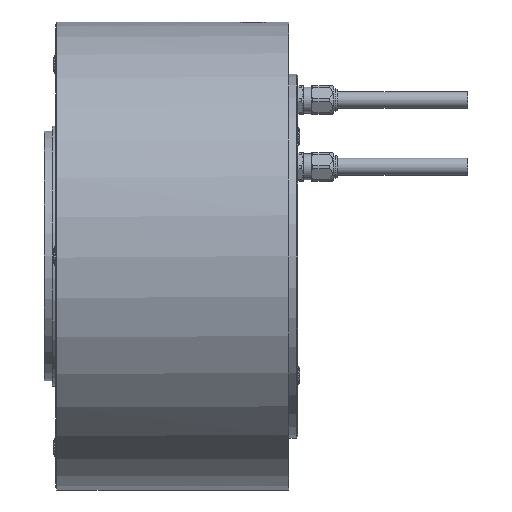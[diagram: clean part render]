
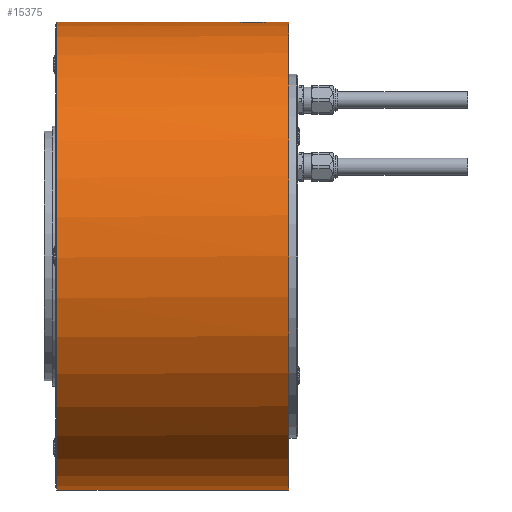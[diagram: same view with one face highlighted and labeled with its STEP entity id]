
A CAD part, left-side view. The second image highlights one B-rep face of the part: STEP entity #15375.
In plain terms, the highlighted cylindrical face has radius 90 mm (diameter 180 mm), a partial arc.
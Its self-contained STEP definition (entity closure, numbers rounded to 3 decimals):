
#39 = CARTESIAN_POINT ( 'NONE',  ( -7., -13., 89.727 ) ) ;
#97 = CARTESIAN_POINT ( 'NONE',  ( -6.956, -13.911, 89.731 ) ) ;
#99 = ORIENTED_EDGE ( 'NONE', *, *, #8497, .T. ) ;
#216 = VERTEX_POINT ( 'NONE', #17776 ) ;
#600 = CARTESIAN_POINT ( 'NONE',  ( -6.632, -15.253, 89.755 ) ) ;
#747 = FACE_OUTER_BOUND ( 'NONE', #13294, .T. ) ;
#869 = CARTESIAN_POINT ( 'NONE',  ( 0., 62.2, -90. ) ) ;
#1320 = CARTESIAN_POINT ( 'NONE',  ( -6.38, -10.11, 89.774 ) ) ;
#1594 = CARTESIAN_POINT ( 'NONE',  ( 0., -20., 90. ) ) ;
#1845 = VECTOR ( 'NONE', #16333, 1000. ) ;
#1868 = CARTESIAN_POINT ( 'NONE',  ( 0., -6., 90. ) ) ;
#1927 = VECTOR ( 'NONE', #20187, 1000. ) ;
#2133 = LINE ( 'NONE', #7092, #1927 ) ;
#2699 = CARTESIAN_POINT ( 'NONE',  ( 0., -20., 90. ) ) ;
#2731 = VERTEX_POINT ( 'NONE', #10478 ) ;
#3049 = CARTESIAN_POINT ( 'NONE',  ( -4.623, -7.724, 89.882 ) ) ;
#3122 = DIRECTION ( 'NONE',  ( 0., 1., 0. ) ) ;
#3151 = CARTESIAN_POINT ( 'NONE',  ( -7., -12.543, 89.727 ) ) ;
#3404 = VERTEX_POINT ( 'NONE', #869 ) ;
#3427 = CARTESIAN_POINT ( 'NONE',  ( -5.564, -17.272, 89.828 ) ) ;
#3638 = CARTESIAN_POINT ( 'NONE',  ( 0., -30., 90. ) ) ;
#3827 = CARTESIAN_POINT ( 'NONE',  ( -2.251, -19.632, 89.972 ) ) ;
#3986 = CARTESIAN_POINT ( 'NONE',  ( 0., -30., 0. ) ) ;
#4175 = CARTESIAN_POINT ( 'NONE',  ( 0., 62.2, 0. ) ) ;
#4421 = CARTESIAN_POINT ( 'NONE',  ( 0., -27., 90. ) ) ;
#4851 = CARTESIAN_POINT ( 'NONE',  ( -2.89, -6.62, 89.954 ) ) ;
#4966 = CARTESIAN_POINT ( 'NONE',  ( -1.818, -6.225, 89.983 ) ) ;
#5537 = CARTESIAN_POINT ( 'NONE',  ( -7., -13.457, 89.727 ) ) ;
#6540 = CARTESIAN_POINT ( 'NONE',  ( -6.821, -14.589, 89.741 ) ) ;
#6593 = CARTESIAN_POINT ( 'NONE',  ( -5.946, -9.299, 89.803 ) ) ;
#6678 = CIRCLE ( 'NONE', #11131, 90. ) ;
#6822 = ORIENTED_EDGE ( 'NONE', *, *, #11179, .F. ) ;
#6945 = AXIS2_PLACEMENT_3D ( 'NONE', #3986, #17075, #17181 ) ;
#7092 = CARTESIAN_POINT ( 'NONE',  ( 0., -30., 90. ) ) ;
#7321 = LINE ( 'NONE', #8611, #12195 ) ;
#7347 = CARTESIAN_POINT ( 'NONE',  ( 0., 62., 0. ) ) ;
#7430 = CIRCLE ( 'NONE', #20451, 90. ) ;
#7522 = VERTEX_POINT ( 'NONE', #14933 ) ;
#7528 = CYLINDRICAL_SURFACE ( 'NONE', #6945, 90. ) ;
#8051 = CARTESIAN_POINT ( 'NONE',  ( -5.274, -17.625, 89.846 ) ) ;
#8110 = CARTESIAN_POINT ( 'NONE',  ( -4.269, -7.434, 89.899 ) ) ;
#8167 = CARTESIAN_POINT ( 'NONE',  ( -6.765, -14.814, 89.745 ) ) ;
#8480 = CARTESIAN_POINT ( 'NONE',  ( -1.25, 62.2, 89.991 ) ) ;
#8497 = EDGE_CURVE ( 'NONE', #12326, #8657, #12279, .T. ) ;
#8611 = CARTESIAN_POINT ( 'NONE',  ( 0., -30., -90. ) ) ;
#8643 = CARTESIAN_POINT ( 'NONE',  ( -0.457, -6., 90. ) ) ;
#8644 = DIRECTION ( 'NONE',  ( 0., 0., -1. ) ) ;
#8657 = VERTEX_POINT ( 'NONE', #8480 ) ;
#8781 = CARTESIAN_POINT ( 'NONE',  ( -6.478, -15.682, 89.767 ) ) ;
#9167 = ORIENTED_EDGE ( 'NONE', *, *, #17486, .F. ) ;
#9172 = AXIS2_PLACEMENT_3D ( 'NONE', #4175, #16073, #12740 ) ;
#9251 = ORIENTED_EDGE ( 'NONE', *, *, #16183, .T. ) ;
#9382 = B_SPLINE_CURVE_WITH_KNOTS ( 'NONE', 3,
 ( #39, #3151, #13039, #17965, #16043, #1320, #17855, #19489, #6593, #13145, #19380, #3049, #8110, #14648, #19585, #19696, #4851, #11433, #4966, #20022, #8643, #1868 ),
 .UNSPECIFIED., .F., .F.,
 ( 4, 2, 2, 2, 2, 2, 2, 2, 2, 2, 4 ),
 ( 0.011, 0.012, 0.014, 0.014, 0.015, 0.016, 0.018, 0.018, 0.019, 0.021, 0.022 ),
 .UNSPECIFIED. ) ;
#9876 = CARTESIAN_POINT ( 'NONE',  ( -7., -13., 89.727 ) ) ;
#9978 = CARTESIAN_POINT ( 'NONE',  ( -5.948, -16.698, 89.803 ) ) ;
#10375 = CARTESIAN_POINT ( 'NONE',  ( -2.47, -19.554, 89.966 ) ) ;
#10397 = LINE ( 'NONE', #3638, #10411 ) ;
#10411 = VECTOR ( 'NONE', #3122, 1000. ) ;
#10478 = CARTESIAN_POINT ( 'NONE',  ( 0., 62., 90. ) ) ;
#10490 = CARTESIAN_POINT ( 'NONE',  ( -0.463, -20., 90. ) ) ;
#10524 = B_SPLINE_CURVE_WITH_KNOTS ( 'NONE', 3,
 ( #1594, #10490, #11488, #18521, #20255, #3827, #10375, #16520, #13299, #14809, #18123, #8051, #3427, #9978, #14700, #15320, #8781, #600, #8167, #6540, #97, #5537, #9876 ),
 .UNSPECIFIED., .F., .F.,
 ( 4, 2, 2, 2, 2, 2, 2, 2, 1, 2, 2, 4 ),
 ( 0., 0.001, 0.002, 0.003, 0.004, 0.005, 0.007, 0.008, 0.008, 0.009, 0.01, 0.011 ),
 .UNSPECIFIED. ) ;
#10760 = ORIENTED_EDGE ( 'NONE', *, *, #11748, .T. ) ;
#11131 = AXIS2_PLACEMENT_3D ( 'NONE', #14979, #14867, #8644 ) ;
#11179 = EDGE_CURVE ( 'NONE', #3404, #8657, #19814, .T. ) ;
#11230 = ORIENTED_EDGE ( 'NONE', *, *, #19914, .F. ) ;
#11433 = CARTESIAN_POINT ( 'NONE',  ( -2.254, -6.357, 89.973 ) ) ;
#11488 = CARTESIAN_POINT ( 'NONE',  ( -0.918, -19.955, 89.996 ) ) ;
#11748 = EDGE_CURVE ( 'NONE', #16166, #216, #9382, .T. ) ;
#12195 = VECTOR ( 'NONE', #18696, 1000. ) ;
#12279 = LINE ( 'NONE', #21158, #1845 ) ;
#12326 = VERTEX_POINT ( 'NONE', #14914 ) ;
#12740 = DIRECTION ( 'NONE',  ( 0., 0., 1. ) ) ;
#13039 = CARTESIAN_POINT ( 'NONE',  ( -6.954, -12.079, 89.731 ) ) ;
#13145 = CARTESIAN_POINT ( 'NONE',  ( -5.566, -8.73, 89.828 ) ) ;
#13294 = EDGE_LOOP ( 'NONE', ( #9167, #11230, #9251, #21049, #10760, #18451, #20298, #99, #6822 ) ) ;
#13299 = CARTESIAN_POINT ( 'NONE',  ( -3.508, -19.075, 89.932 ) ) ;
#14075 = DIRECTION ( 'NONE',  ( 0., 1., 0. ) ) ;
#14648 = CARTESIAN_POINT ( 'NONE',  ( -3.701, -7.054, 89.924 ) ) ;
#14700 = CARTESIAN_POINT ( 'NONE',  ( -6.067, -16.499, 89.795 ) ) ;
#14809 = CARTESIAN_POINT ( 'NONE',  ( -4.269, -18.567, 89.9 ) ) ;
#14867 = DIRECTION ( 'NONE',  ( 0., -1., 0. ) ) ;
#14914 = CARTESIAN_POINT ( 'NONE',  ( -1.25, 62., 89.991 ) ) ;
#14933 = CARTESIAN_POINT ( 'NONE',  ( 0., -27., -90. ) ) ;
#14979 = CARTESIAN_POINT ( 'NONE',  ( 0., -27., 0. ) ) ;
#15320 = CARTESIAN_POINT ( 'NONE',  ( -6.283, -16.095, 89.781 ) ) ;
#15375 = ADVANCED_FACE ( 'NONE', ( #747 ), #7528, .T. ) ;
#15538 = EDGE_CURVE ( 'NONE', #16091, #16166, #10524, .T. ) ;
#15714 = DIRECTION ( 'NONE',  ( 0., 0., 1. ) ) ;
#16043 = CARTESIAN_POINT ( 'NONE',  ( -6.643, -10.746, 89.755 ) ) ;
#16073 = DIRECTION ( 'NONE',  ( 0., 1., 0. ) ) ;
#16091 = VERTEX_POINT ( 'NONE', #2699 ) ;
#16166 = VERTEX_POINT ( 'NONE', #16234 ) ;
#16183 = EDGE_CURVE ( 'NONE', #18503, #16091, #10397, .T. ) ;
#16234 = CARTESIAN_POINT ( 'NONE',  ( -7., -13., 89.727 ) ) ;
#16333 = DIRECTION ( 'NONE',  ( 0., 1., 0. ) ) ;
#16520 = CARTESIAN_POINT ( 'NONE',  ( -3.106, -19.29, 89.947 ) ) ;
#17075 = DIRECTION ( 'NONE',  ( 0., 1., 0. ) ) ;
#17181 = DIRECTION ( 'NONE',  ( 0., 0., 1. ) ) ;
#17486 = EDGE_CURVE ( 'NONE', #7522, #3404, #7321, .T. ) ;
#17776 = CARTESIAN_POINT ( 'NONE',  ( 0., -6., 90. ) ) ;
#17855 = CARTESIAN_POINT ( 'NONE',  ( -6.28, -9.9, 89.781 ) ) ;
#17965 = CARTESIAN_POINT ( 'NONE',  ( -6.775, -11.182, 89.745 ) ) ;
#18123 = CARTESIAN_POINT ( 'NONE',  ( -4.629, -18.271, 89.881 ) ) ;
#18295 = EDGE_CURVE ( 'NONE', #12326, #2731, #7430, .T. ) ;
#18451 = ORIENTED_EDGE ( 'NONE', *, *, #21040, .T. ) ;
#18503 = VERTEX_POINT ( 'NONE', #4421 ) ;
#18521 = CARTESIAN_POINT ( 'NONE',  ( -1.589, -19.821, 89.986 ) ) ;
#18696 = DIRECTION ( 'NONE',  ( 0., 1., 0. ) ) ;
#19380 = CARTESIAN_POINT ( 'NONE',  ( -5.277, -8.377, 89.846 ) ) ;
#19489 = CARTESIAN_POINT ( 'NONE',  ( -6.064, -9.495, 89.796 ) ) ;
#19585 = CARTESIAN_POINT ( 'NONE',  ( -3.505, -6.936, 89.932 ) ) ;
#19696 = CARTESIAN_POINT ( 'NONE',  ( -3.1, -6.72, 89.947 ) ) ;
#19814 = CIRCLE ( 'NONE', #9172, 90. ) ;
#19914 = EDGE_CURVE ( 'NONE', #18503, #7522, #6678, .T. ) ;
#20022 = CARTESIAN_POINT ( 'NONE',  ( -0.921, -6.046, 89.996 ) ) ;
#20187 = DIRECTION ( 'NONE',  ( 0., 1., 0. ) ) ;
#20255 = CARTESIAN_POINT ( 'NONE',  ( -1.811, -19.766, 89.982 ) ) ;
#20298 = ORIENTED_EDGE ( 'NONE', *, *, #18295, .F. ) ;
#20451 = AXIS2_PLACEMENT_3D ( 'NONE', #7347, #14075, #15714 ) ;
#21040 = EDGE_CURVE ( 'NONE', #216, #2731, #2133, .T. ) ;
#21049 = ORIENTED_EDGE ( 'NONE', *, *, #15538, .T. ) ;
#21158 = CARTESIAN_POINT ( 'NONE',  ( -1.25, 62., 89.991 ) ) ;
